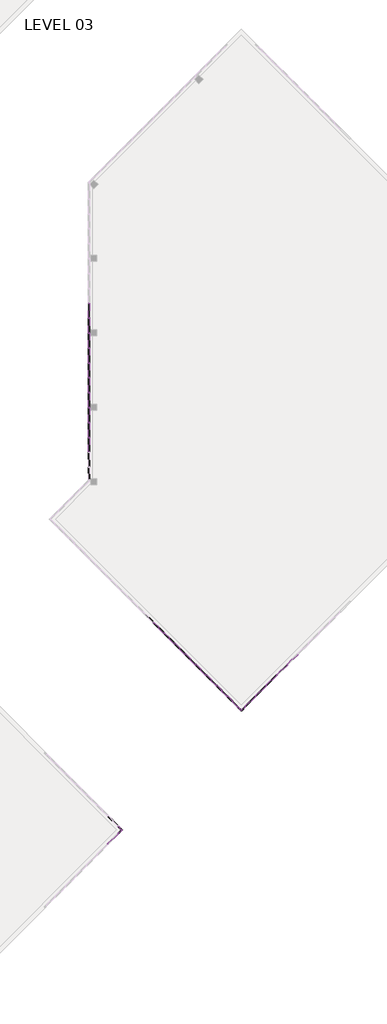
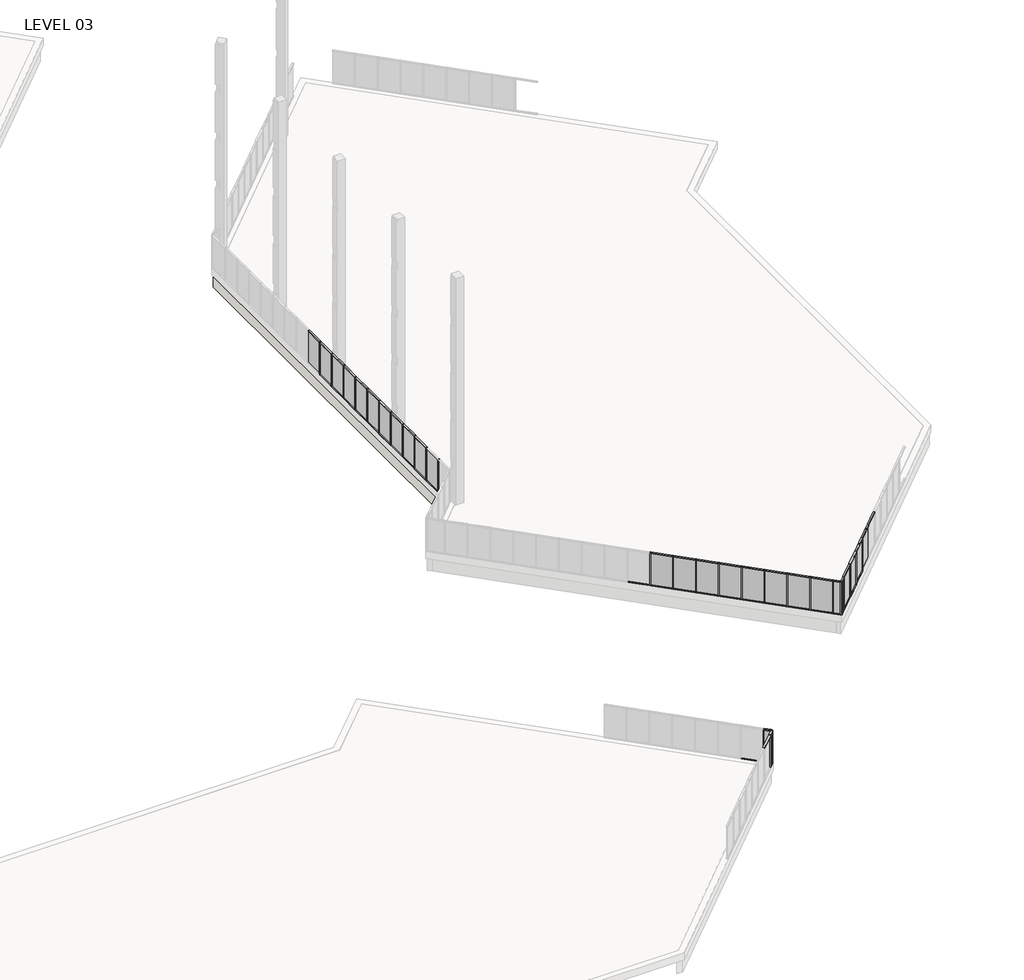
# One storey, part 10 of 18: 86 members, 27 plates, 1 wall.
"""IFC4 building model written with IfcOpenShell, lengths in millimetres."""

from ifc_helpers import new_model, si_unit, origin, place, context, project, spatial, faceted_brep, transform, mapped, element, save
from components import member_5247f267, member_e44af9ab, member_800970d4, member_ac5115e9, member_25b26a38, member_45eb7f2e, member_910c08c9, plate_c01932d8, plate_6d527a83, plate_67294edd

model = new_model("IFC4")

# Units and contexts
model_context = context("Model", 3, world=origin())
ifc_project = project(units=[si_unit("LENGTHUNIT", "METRE", prefix="MILLI")], contexts=[model_context])

# Site, building, storey
site = spatial("IfcSite", under=ifc_project)
building = spatial("IfcBuilding", under=site)
storey = spatial("IfcBuildingStorey", under=building, Name="LEVEL 03", Elevation=8280.4)

# Members
placement = place(None, origin())
member_shape = member_5247f267(model_context)
element("IfcMember", 1, ObjectType="Rectangular Mullion : 2\" x 4.5\" rectangular", at=placement, inside=storey, context=model_context, shape_type="MappedRepresentation", body=[
    mapped(member_shape, transform((64227.3404937, 10894.4485141, 8280.4), x_axis=(0.0, 0.0, -1.0), y_axis=(0.7071067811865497, 0.7071067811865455, 0.0), z_axis=(0.7071067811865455, -0.7071067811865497, 0.0))),
])
element("IfcMember", 2, ObjectType="Rectangular Mullion : 2\" x 4.5\" rectangular", at=placement, inside=storey, context=model_context, shape_type="MappedRepresentation", body=[
    mapped(member_shape, transform((64227.5191663, 10093.8459028, 10871.2), x_axis=(0.0, 0.0, 1.0), y_axis=(0.7071067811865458, -0.7071067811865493, 0.0), z_axis=(0.7071067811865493, 0.7071067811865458, 0.0))),
])
member_2_shape = member_e44af9ab(model_context)
element("IfcMember", 3, ObjectType="Rectangular Mullion : 2\" x 4.5\" rectangular", at=placement, inside=storey, context=model_context, shape_type="MappedRepresentation", body=[
    mapped(member_2_shape, transform((64245.4796786, 10111.8064151, 8280.4), x_axis=(0.7071067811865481, 0.7071067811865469, 0.0), y_axis=(0.7071067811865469, -0.7071067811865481, 0.0), z_axis=(0.0, 0.0, -1.0))),
])
element("IfcMember", 4, ObjectType="Rectangular Mullion : 2\" x 4.5\" rectangular", at=placement, inside=storey, context=model_context, shape_type="MappedRepresentation", body=[
    mapped(member_2_shape, transform((64245.3010059, 10876.4880018, 8280.4), x_axis=(-0.7071067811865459, 0.7071067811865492, 0.0), y_axis=(0.7071067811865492, 0.7071067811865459, 0.0), z_axis=(0.0, 0.0, -1.0))),
])
member_3_shape = member_800970d4(model_context)
element("IfcMember", 5, ObjectType="Rectangular Mullion : 2\" x 4.5\" rectangular", at=placement, inside=storey, context=model_context, shape_type="MappedRepresentation", body=[
    mapped(member_3_shape, transform((64627.7311356, 10494.0578721, 8280.4), x_axis=(0.7071067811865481, 0.7071067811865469, 0.0), y_axis=(0.7071067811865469, -0.7071067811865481, 0.0), z_axis=(0.0, 0.0, -1.0))),
])
element("IfcMember", 6, ObjectType="Rectangular Mullion : 2\" x 4.5\" rectangular", at=placement, inside=storey, context=model_context, shape_type="MappedRepresentation", body=[
    mapped(member_3_shape, transform((64627.7311356, 10494.0578721, 10871.2), x_axis=(0.7071067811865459, -0.7071067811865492, 0.0), y_axis=(0.7071067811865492, 0.7071067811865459, 0.0), z_axis=(0.0, 0.0, 1.0))),
])
member_4_shape = member_ac5115e9(model_context)
element("IfcMember", 7, ObjectType="Rectangular Mullion : 2\" x 4.5\" rectangular", at=placement, inside=storey, context=model_context, shape_type="MappedRepresentation", body=[
    mapped(member_4_shape, transform((64591.8101111, 10458.1368476, 10871.2), x_axis=(0.0, 0.0, 1.0), y_axis=(0.7071067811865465, -0.7071067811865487, 0.0), z_axis=(0.7071067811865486, 0.7071067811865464, 0.0))),
])
element("IfcMember", 8, ObjectType="Rectangular Mullion : 2\" x 4.5\" rectangular", at=placement, inside=storey, context=model_context, shape_type="MappedRepresentation", body=[
    mapped(member_4_shape, transform((64263.4401908, 10129.7669273, 8280.4), x_axis=(0.0, 0.0, -1.0), y_axis=(0.7071067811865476, -0.7071067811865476, 0.0), z_axis=(-0.7071067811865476, -0.7071067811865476, 0.0))),
])
member_5_shape = member_25b26a38(model_context)
element("IfcMember", 9, ObjectType="Rectangular Mullion : 2\" x 4.5\" rectangular", at=placement, inside=storey, context=model_context, shape_type="MappedRepresentation", body=[
    mapped(member_5_shape, transform((64591.8101111, 10529.9788966, 8280.4), x_axis=(0.0, 0.0, -1.0), y_axis=(0.7071067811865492, 0.7071067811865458, 0.0), z_axis=(0.7071067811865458, -0.7071067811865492, 0.0))),
])
element("IfcMember", 10, ObjectType="Rectangular Mullion : 2\" x 4.5\" rectangular", at=placement, inside=storey, context=model_context, shape_type="MappedRepresentation", body=[
    mapped(member_5_shape, transform((64263.2615182, 10858.5274896, 10871.2), x_axis=(0.0, 0.0, 1.0), y_axis=(0.7071067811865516, 0.7071067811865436, 0.0), z_axis=(-0.7071067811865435, 0.7071067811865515, 0.0))),
])
element("IfcMember", 11, ObjectType="Rectangular Mullion : 2\" x 4.5\" rectangular", at=placement, inside=storey, context=model_context, shape_type="MappedRepresentation", body=[
    mapped(member_shape, transform((61263.7847164, 62877.3675885, 10871.2), x_axis=(0.0, 0.0, 1.0), y_axis=(-1.0, 0.0, 0.0), z_axis=(0.0, -1.0, 0.0))),
])
element("IfcMember", 12, ObjectType="Rectangular Mullion : 2\" x 4.5\" rectangular", at=placement, inside=storey, context=model_context, shape_type="MappedRepresentation", body=[
    mapped(member_shape, transform((61263.7847164, 59829.3675885, 10871.2), x_axis=(0.0, 0.0, 1.0), y_axis=(-1.0, 0.0, 0.0), z_axis=(0.0, -1.0, 0.0))),
])
element("IfcMember", 13, ObjectType="Rectangular Mullion : 2\" x 4.5\" rectangular", at=placement, inside=storey, context=model_context, shape_type="MappedRepresentation", body=[
    mapped(member_shape, transform((61263.7847164, 58305.3675885, 10871.2), x_axis=(0.0, 0.0, 1.0), y_axis=(-1.0, 0.0, 0.0), z_axis=(0.0, -1.0, 0.0))),
])
element("IfcMember", 14, ObjectType="Rectangular Mullion : 2\" x 4.5\" rectangular", at=placement, inside=storey, context=model_context, shape_type="MappedRepresentation", body=[
    mapped(member_shape, transform((61263.7847164, 56781.3675885, 10871.2), x_axis=(0.0, 0.0, 1.0), y_axis=(-1.0, 0.0, 0.0), z_axis=(0.0, -1.0, 0.0))),
])
element("IfcMember", 15, ObjectType="Rectangular Mullion : 2\" x 4.5\" rectangular", at=placement, inside=storey, context=model_context, shape_type="MappedRepresentation", body=[
    mapped(member_shape, transform((61263.7847164, 55257.3675885, 10871.2), x_axis=(0.0, 0.0, 1.0), y_axis=(-1.0, 0.0, 0.0), z_axis=(0.0, -1.0, 0.0))),
])
element("IfcMember", 16, ObjectType="Rectangular Mullion : 2\" x 4.5\" rectangular", at=placement, inside=storey, context=model_context, shape_type="MappedRepresentation", body=[
    mapped(member_shape, transform((61263.7847164, 52209.3675885, 10871.2), x_axis=(0.0, 0.0, 1.0), y_axis=(-1.0, 0.0, 0.0), z_axis=(0.0, -1.0, 0.0))),
])
element("IfcMember", 17, ObjectType="Rectangular Mullion : 2\" x 4.5\" rectangular", at=placement, inside=storey, context=model_context, shape_type="MappedRepresentation", body=[
    mapped(member_shape, transform((61263.7847164, 50685.3675885, 10871.2), x_axis=(0.0, 0.0, 1.0), y_axis=(-1.0, 0.0, 0.0), z_axis=(0.0, -1.0, 0.0))),
])
element("IfcMember", 18, ObjectType="Rectangular Mullion : 2\" x 4.5\" rectangular", at=placement, inside=storey, context=model_context, shape_type="MappedRepresentation", body=[
    mapped(member_shape, transform((61263.7847164, 49161.3675885, 10871.2), x_axis=(0.0, 0.0, 1.0), y_axis=(-1.0, 0.0, 0.0), z_axis=(0.0, -1.0, 0.0))),
])
element("IfcMember", 19, ObjectType="Rectangular Mullion : 2\" x 4.5\" rectangular", at=placement, inside=storey, context=model_context, shape_type="MappedRepresentation", body=[
    mapped(member_shape, transform((78327.7024202, 24194.0291567, 10871.2), x_axis=(0.0, 0.0, 1.0), y_axis=(-0.7071067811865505, 0.7071067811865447, 0.0), z_axis=(-0.7071067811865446, -0.7071067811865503, 0.0))),
])
element("IfcMember", 20, ObjectType="Rectangular Mullion : 2\" x 4.5\" rectangular", at=placement, inside=storey, context=model_context, shape_type="MappedRepresentation", body=[
    mapped(member_shape, transform((75407.7593644, 24158.2868049, 10871.2), x_axis=(0.0, 0.0, 1.0), y_axis=(0.7071067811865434, 0.7071067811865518, 0.0), z_axis=(-0.7071067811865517, 0.7071067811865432, 0.0))),
])
element("IfcMember", 21, ObjectType="Rectangular Mullion : 2\" x 4.5\" rectangular", at=placement, inside=storey, context=model_context, shape_type="MappedRepresentation", body=[
    mapped(member_shape, transform((74330.1286299, 25235.9175394, 10871.2), x_axis=(0.0, 0.0, 1.0), y_axis=(0.7071067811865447, 0.7071067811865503, 0.0), z_axis=(-0.7071067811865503, 0.7071067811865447, 0.0))),
])
element("IfcMember", 22, ObjectType="Rectangular Mullion : 2\" x 4.5\" rectangular", at=placement, inside=storey, context=model_context, shape_type="MappedRepresentation", body=[
    mapped(member_shape, transform((73252.4978954, 26313.5482739, 10871.2), x_axis=(0.0, 0.0, 1.0), y_axis=(0.7071067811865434, 0.7071067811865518, 0.0), z_axis=(-0.7071067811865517, 0.7071067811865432, 0.0))),
])
element("IfcMember", 23, ObjectType="Rectangular Mullion : 2\" x 4.5\" rectangular", at=placement, inside=storey, context=model_context, shape_type="MappedRepresentation", body=[
    mapped(member_shape, transform((71097.2364263, 28468.809743, 10871.2), x_axis=(0.0, 0.0, 1.0), y_axis=(0.7071067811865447, 0.7071067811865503, 0.0), z_axis=(-0.7071067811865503, 0.7071067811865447, 0.0))),
])
element("IfcMember", 24, ObjectType="Rectangular Mullion : 2\" x 4.5\" rectangular", at=placement, inside=storey, context=model_context, shape_type="MappedRepresentation", body=[
    mapped(member_shape, transform((70019.6056918, 29546.4404775, 10871.2), x_axis=(0.0, 0.0, 1.0), y_axis=(0.7071067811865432, 0.7071067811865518, 0.0), z_axis=(-0.7071067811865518, 0.7071067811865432, 0.0))),
])
element("IfcMember", 25, ObjectType="Rectangular Mullion : 2\" x 4.5\" rectangular", at=placement, inside=storey, context=model_context, shape_type="MappedRepresentation", body=[
    mapped(member_shape, transform((68941.9749572, 30624.071212, 10871.2), x_axis=(0.0, 0.0, 1.0), y_axis=(0.7071067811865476, 0.7071067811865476, 0.0), z_axis=(-0.7071067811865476, 0.7071067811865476, 0.0))),
])
element("IfcMember", 26, ObjectType="Rectangular Mullion : 2\" x 4.5\" rectangular", at=placement, inside=storey, context=model_context, shape_type="MappedRepresentation", body=[
    mapped(member_shape, transform((67864.3442227, 31701.7019466, 10871.2), x_axis=(0.0, 0.0, 1.0), y_axis=(0.7071067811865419, 0.7071067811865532, 0.0), z_axis=(-0.7071067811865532, 0.7071067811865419, 0.0))),
])
element("IfcMember", 27, ObjectType="Rectangular Mullion : 2\" x 4.5\" rectangular", at=placement, inside=storey, context=model_context, shape_type="MappedRepresentation", body=[
    mapped(member_shape, transform((81560.5946238, 27426.9213603, 10871.2), x_axis=(0.0, 0.0, 1.0), y_axis=(-0.7071067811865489, 0.7071067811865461, 0.0), z_axis=(-0.7071067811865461, -0.7071067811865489, 0.0))),
])
element("IfcMember", 28, ObjectType="Rectangular Mullion : 2\" x 4.5\" rectangular", at=placement, inside=storey, context=model_context, shape_type="MappedRepresentation", body=[
    mapped(member_shape, transform((80482.9638893, 26349.2906258, 10871.2), x_axis=(0.0, 0.0, 1.0), y_axis=(-0.7071067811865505, 0.7071067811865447, 0.0), z_axis=(-0.7071067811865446, -0.7071067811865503, 0.0))),
])
element("IfcMember", 29, ObjectType="Rectangular Mullion : 2\" x 4.5\" rectangular", at=placement, inside=storey, context=model_context, shape_type="MappedRepresentation", body=[
    mapped(member_shape, transform((79405.3331548, 25271.6598913, 10871.2), x_axis=(0.0, 0.0, 1.0), y_axis=(-0.7071067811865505, 0.7071067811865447, 0.0), z_axis=(-0.7071067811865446, -0.7071067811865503, 0.0))),
])
element("IfcMember", 30, ObjectType="Rectangular Mullion : 2\" x 4.5\" rectangular", at=placement, inside=storey, context=model_context, shape_type="MappedRepresentation", body=[
    mapped(member_shape, transform((77250.0716857, 23116.3984222, 10871.2), x_axis=(0.0, 0.0, 1.0), y_axis=(-0.7071067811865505, 0.7071067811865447, 0.0), z_axis=(-0.7071067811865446, -0.7071067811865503, 0.0))),
])
element("IfcMember", 31, ObjectType="Rectangular Mullion : 2\" x 4.5\" rectangular", at=placement, inside=storey, context=model_context, shape_type="MappedRepresentation", body=[
    mapped(member_shape, transform((72174.8671608, 27391.1790085, 10871.2), x_axis=(0.0, 0.0, 1.0), y_axis=(0.7071067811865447, 0.7071067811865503, 0.0), z_axis=(-0.7071067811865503, 0.7071067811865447, 0.0))),
])
element("IfcMember", 32, ObjectType="Rectangular Mullion : 2\" x 4.5\" rectangular", at=placement, inside=storey, context=model_context, shape_type="MappedRepresentation", body=[
    mapped(member_shape, transform((61263.7847164, 53733.3675885, 10871.2), x_axis=(0.0, 0.0, 1.0), y_axis=(-1.0, 0.0, 0.0), z_axis=(0.0, -1.0, 0.0))),
])
element("IfcMember", 33, ObjectType="Rectangular Mullion : 2\" x 4.5\" rectangular", at=placement, inside=storey, context=model_context, shape_type="MappedRepresentation", body=[
    mapped(member_shape, transform((61263.7847164, 61353.3675885, 10871.2), x_axis=(0.0, 0.0, 1.0), y_axis=(-1.0, 0.0, 0.0), z_axis=(0.0, -1.0, 0.0))),
])
element("IfcMember", 34, ObjectType="Rectangular Mullion : 2\" x 4.5\" rectangular", at=placement, inside=storey, context=model_context, shape_type="MappedRepresentation", body=[
    mapped(member_shape, transform((61263.7847164, 62826.5675885, 8280.4), x_axis=(0.0, 0.0, -1.0), y_axis=(-1.0, 0.0, 0.0), z_axis=(0.0, 1.0, 0.0))),
])
element("IfcMember", 35, ObjectType="Rectangular Mullion : 2\" x 4.5\" rectangular", at=placement, inside=storey, context=model_context, shape_type="MappedRepresentation", body=[
    mapped(member_shape, transform((61263.7847164, 59778.5675885, 8280.4), x_axis=(0.0, 0.0, -1.0), y_axis=(-1.0, 0.0, 0.0), z_axis=(0.0, 1.0, 0.0))),
])
element("IfcMember", 36, ObjectType="Rectangular Mullion : 2\" x 4.5\" rectangular", at=placement, inside=storey, context=model_context, shape_type="MappedRepresentation", body=[
    mapped(member_shape, transform((61263.7847164, 58254.5675885, 8280.4), x_axis=(0.0, 0.0, -1.0), y_axis=(-1.0, 0.0, 0.0), z_axis=(0.0, 1.0, 0.0))),
])
element("IfcMember", 37, ObjectType="Rectangular Mullion : 2\" x 4.5\" rectangular", at=placement, inside=storey, context=model_context, shape_type="MappedRepresentation", body=[
    mapped(member_shape, transform((61263.7847164, 56730.5675885, 8280.4), x_axis=(0.0, 0.0, -1.0), y_axis=(-1.0, 0.0, 0.0), z_axis=(0.0, 1.0, 0.0))),
])
element("IfcMember", 38, ObjectType="Rectangular Mullion : 2\" x 4.5\" rectangular", at=placement, inside=storey, context=model_context, shape_type="MappedRepresentation", body=[
    mapped(member_shape, transform((61263.7847164, 55206.5675885, 8280.4), x_axis=(0.0, 0.0, -1.0), y_axis=(-1.0, 0.0, 0.0), z_axis=(0.0, 1.0, 0.0))),
])
element("IfcMember", 39, ObjectType="Rectangular Mullion : 2\" x 4.5\" rectangular", at=placement, inside=storey, context=model_context, shape_type="MappedRepresentation", body=[
    mapped(member_shape, transform((61263.7847164, 52158.5675885, 8280.4), x_axis=(0.0, 0.0, -1.0), y_axis=(-1.0, 0.0, 0.0), z_axis=(0.0, 1.0, 0.0))),
])
element("IfcMember", 40, ObjectType="Rectangular Mullion : 2\" x 4.5\" rectangular", at=placement, inside=storey, context=model_context, shape_type="MappedRepresentation", body=[
    mapped(member_shape, transform((61263.7847164, 50634.5675885, 8280.4), x_axis=(0.0, 0.0, -1.0), y_axis=(-1.0, 0.0, 0.0), z_axis=(0.0, 1.0, 0.0))),
])
element("IfcMember", 41, ObjectType="Rectangular Mullion : 2\" x 4.5\" rectangular", at=placement, inside=storey, context=model_context, shape_type="MappedRepresentation", body=[
    mapped(member_shape, transform((61263.7847164, 49110.5675885, 8280.4), x_axis=(0.0, 0.0, -1.0), y_axis=(-1.0, 0.0, 0.0), z_axis=(0.0, 1.0, 0.0))),
])
element("IfcMember", 42, ObjectType="Rectangular Mullion : 2\" x 4.5\" rectangular", at=placement, inside=storey, context=model_context, shape_type="MappedRepresentation", body=[
    mapped(member_shape, transform((78291.7813957, 24158.1081322, 8280.4), x_axis=(0.0, 0.0, -1.0), y_axis=(-0.7071067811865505, 0.7071067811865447, 0.0), z_axis=(0.7071067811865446, 0.7071067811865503, 0.0))),
])
element("IfcMember", 43, ObjectType="Rectangular Mullion : 2\" x 4.5\" rectangular", at=placement, inside=storey, context=model_context, shape_type="MappedRepresentation", body=[
    mapped(member_shape, transform((75371.8383399, 24194.2078294, 8280.4), x_axis=(0.0, 0.0, -1.0), y_axis=(0.7071067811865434, 0.7071067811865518, 0.0), z_axis=(0.7071067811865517, -0.7071067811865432, 0.0))),
])
element("IfcMember", 44, ObjectType="Rectangular Mullion : 2\" x 4.5\" rectangular", at=placement, inside=storey, context=model_context, shape_type="MappedRepresentation", body=[
    mapped(member_shape, transform((74294.2076054, 25271.8385639, 8280.4), x_axis=(0.0, 0.0, -1.0), y_axis=(0.7071067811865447, 0.7071067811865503, 0.0), z_axis=(0.7071067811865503, -0.7071067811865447, 0.0))),
])
element("IfcMember", 45, ObjectType="Rectangular Mullion : 2\" x 4.5\" rectangular", at=placement, inside=storey, context=model_context, shape_type="MappedRepresentation", body=[
    mapped(member_shape, transform((73216.5768709, 26349.4692984, 8280.4), x_axis=(0.0, 0.0, -1.0), y_axis=(0.7071067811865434, 0.7071067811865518, 0.0), z_axis=(0.7071067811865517, -0.7071067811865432, 0.0))),
])
element("IfcMember", 46, ObjectType="Rectangular Mullion : 2\" x 4.5\" rectangular", at=placement, inside=storey, context=model_context, shape_type="MappedRepresentation", body=[
    mapped(member_shape, transform((71061.3154018, 28504.7307675, 8280.4), x_axis=(0.0, 0.0, -1.0), y_axis=(0.7071067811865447, 0.7071067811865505, 0.0), z_axis=(0.7071067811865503, -0.7071067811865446, 0.0))),
])
element("IfcMember", 47, ObjectType="Rectangular Mullion : 2\" x 4.5\" rectangular", at=placement, inside=storey, context=model_context, shape_type="MappedRepresentation", body=[
    mapped(member_shape, transform((69983.6846673, 29582.361502, 8280.4), x_axis=(0.0, 0.0, -1.0), y_axis=(0.7071067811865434, 0.7071067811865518, 0.0), z_axis=(0.7071067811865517, -0.7071067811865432, 0.0))),
])
element("IfcMember", 48, ObjectType="Rectangular Mullion : 2\" x 4.5\" rectangular", at=placement, inside=storey, context=model_context, shape_type="MappedRepresentation", body=[
    mapped(member_shape, transform((68906.0539328, 30659.9922365, 8280.4), x_axis=(0.0, 0.0, -1.0), y_axis=(0.7071067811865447, 0.7071067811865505, 0.0), z_axis=(0.7071067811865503, -0.7071067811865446, 0.0))),
])
element("IfcMember", 49, ObjectType="Rectangular Mullion : 2\" x 4.5\" rectangular", at=placement, inside=storey, context=model_context, shape_type="MappedRepresentation", body=[
    mapped(member_shape, transform((80447.0428648, 26313.3696013, 8280.4), x_axis=(0.0, 0.0, -1.0), y_axis=(-0.7071067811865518, 0.7071067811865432, 0.0), z_axis=(0.7071067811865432, 0.7071067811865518, 0.0))),
])
element("IfcMember", 50, ObjectType="Rectangular Mullion : 2\" x 4.5\" rectangular", at=placement, inside=storey, context=model_context, shape_type="MappedRepresentation", body=[
    mapped(member_shape, transform((79369.4121303, 25235.7388668, 8280.4), x_axis=(0.0, 0.0, -1.0), y_axis=(-0.7071067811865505, 0.7071067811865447, 0.0), z_axis=(0.7071067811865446, 0.7071067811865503, 0.0))),
])
element("IfcMember", 51, ObjectType="Rectangular Mullion : 2\" x 4.5\" rectangular", at=placement, inside=storey, context=model_context, shape_type="MappedRepresentation", body=[
    mapped(member_shape, transform((72138.9461363, 27427.1000329, 8280.4), x_axis=(0.0, 0.0, -1.0), y_axis=(0.7071067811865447, 0.7071067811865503, 0.0), z_axis=(0.7071067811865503, -0.7071067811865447, 0.0))),
])
element("IfcMember", 52, ObjectType="Rectangular Mullion : 2\" x 4.5\" rectangular", at=placement, inside=storey, context=model_context, shape_type="MappedRepresentation", body=[
    mapped(member_shape, transform((76449.4690745, 23116.5770948, 8280.4), x_axis=(0.0, 0.0, -1.0), y_axis=(0.7071067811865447, 0.7071067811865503, 0.0), z_axis=(0.7071067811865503, -0.7071067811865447, 0.0))),
])
element("IfcMember", 53, ObjectType="Rectangular Mullion : 2\" x 4.5\" rectangular", at=placement, inside=storey, context=model_context, shape_type="MappedRepresentation", body=[
    mapped(member_shape, transform((61263.7847164, 53682.5675885, 8280.4), x_axis=(0.0, 0.0, -1.0), y_axis=(-1.0, 0.0, 0.0), z_axis=(0.0, 1.0, 0.0))),
])
element("IfcMember", 54, ObjectType="Rectangular Mullion : 2\" x 4.5\" rectangular", at=placement, inside=storey, context=model_context, shape_type="MappedRepresentation", body=[
    mapped(member_shape, transform((61263.7847164, 61302.5675885, 8280.4), x_axis=(0.0, 0.0, -1.0), y_axis=(-1.0, 0.0, 0.0), z_axis=(0.0, 1.0, 0.0))),
])
element("IfcMember", 55, ObjectType="Rectangular Mullion : 2\" x 4.5\" rectangular", at=placement, inside=storey, context=model_context, shape_type="MappedRepresentation", body=[
    mapped(member_2_shape, transform((61263.7847164, 62851.9675885, 8280.4), x_axis=(0.0, -1.0, 0.0), y_axis=(-1.0, 0.0, 0.0), z_axis=(0.0, 0.0, -1.0))),
])
element("IfcMember", 56, ObjectType="Rectangular Mullion : 2\" x 4.5\" rectangular", at=placement, inside=storey, context=model_context, shape_type="MappedRepresentation", body=[
    mapped(member_2_shape, transform((61263.7847164, 59803.9675885, 8280.4), x_axis=(0.0, -1.0, 0.0), y_axis=(-1.0, 0.0, 0.0), z_axis=(0.0, 0.0, -1.0))),
])
element("IfcMember", 57, ObjectType="Rectangular Mullion : 2\" x 4.5\" rectangular", at=placement, inside=storey, context=model_context, shape_type="MappedRepresentation", body=[
    mapped(member_2_shape, transform((61263.7847164, 58279.9675885, 8280.4), x_axis=(0.0, -1.0, 0.0), y_axis=(-1.0, 0.0, 0.0), z_axis=(0.0, 0.0, -1.0))),
])
element("IfcMember", 58, ObjectType="Rectangular Mullion : 2\" x 4.5\" rectangular", at=placement, inside=storey, context=model_context, shape_type="MappedRepresentation", body=[
    mapped(member_2_shape, transform((61263.7847164, 56755.9675885, 8280.4), x_axis=(0.0, -1.0, 0.0), y_axis=(-1.0, 0.0, 0.0), z_axis=(0.0, 0.0, -1.0))),
])
element("IfcMember", 59, ObjectType="Rectangular Mullion : 2\" x 4.5\" rectangular", at=placement, inside=storey, context=model_context, shape_type="MappedRepresentation", body=[
    mapped(member_2_shape, transform((61263.7847164, 55231.9675885, 8280.4), x_axis=(0.0, -1.0, 0.0), y_axis=(-1.0, 0.0, 0.0), z_axis=(0.0, 0.0, -1.0))),
])
element("IfcMember", 60, ObjectType="Rectangular Mullion : 2\" x 4.5\" rectangular", at=placement, inside=storey, context=model_context, shape_type="MappedRepresentation", body=[
    mapped(member_2_shape, transform((61263.7847164, 52183.9675885, 8280.4), x_axis=(0.0, -1.0, 0.0), y_axis=(-1.0, 0.0, 0.0), z_axis=(0.0, 0.0, -1.0))),
])
element("IfcMember", 61, ObjectType="Rectangular Mullion : 2\" x 4.5\" rectangular", at=placement, inside=storey, context=model_context, shape_type="MappedRepresentation", body=[
    mapped(member_2_shape, transform((61263.7847164, 50659.9675885, 8280.4), x_axis=(0.0, -1.0, 0.0), y_axis=(-1.0, 0.0, 0.0), z_axis=(0.0, 0.0, -1.0))),
])
element("IfcMember", 62, ObjectType="Rectangular Mullion : 2\" x 4.5\" rectangular", at=placement, inside=storey, context=model_context, shape_type="MappedRepresentation", body=[
    mapped(member_2_shape, transform((61263.7847164, 49135.9675885, 8280.4), x_axis=(0.0, -1.0, 0.0), y_axis=(-1.0, 0.0, 0.0), z_axis=(0.0, 0.0, -1.0))),
])
element("IfcMember", 63, ObjectType="Rectangular Mullion : 2\" x 4.5\" rectangular", at=placement, inside=storey, context=model_context, shape_type="MappedRepresentation", body=[
    mapped(member_2_shape, transform((61263.7847164, 47611.9675885, 8280.4), x_axis=(0.0, -1.0, 0.0), y_axis=(-1.0, 0.0, 0.0), z_axis=(0.0, 0.0, -1.0))),
])
element("IfcMember", 64, ObjectType="Rectangular Mullion : 2\" x 4.5\" rectangular", at=placement, inside=storey, context=model_context, shape_type="MappedRepresentation", body=[
    mapped(member_2_shape, transform((78309.741908, 24176.0686445, 8280.4), x_axis=(-0.7071067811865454, -0.7071067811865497, 0.0), y_axis=(-0.7071067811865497, 0.7071067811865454, 0.0), z_axis=(0.0, 0.0, -1.0))),
])
element("IfcMember", 65, ObjectType="Rectangular Mullion : 2\" x 4.5\" rectangular", at=placement, inside=storey, context=model_context, shape_type="MappedRepresentation", body=[
    mapped(member_2_shape, transform((75389.7988522, 24176.2473171, 8280.4), x_axis=(-0.7071067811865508, 0.7071067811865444, 0.0), y_axis=(0.7071067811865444, 0.7071067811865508, 0.0), z_axis=(0.0, 0.0, -1.0))),
])
element("IfcMember", 66, ObjectType="Rectangular Mullion : 2\" x 4.5\" rectangular", at=placement, inside=storey, context=model_context, shape_type="MappedRepresentation", body=[
    mapped(member_2_shape, transform((74312.1681176, 25253.8780517, 8280.4), x_axis=(-0.7071067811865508, 0.7071067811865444, 0.0), y_axis=(0.7071067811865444, 0.7071067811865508, 0.0), z_axis=(0.0, 0.0, -1.0))),
])
element("IfcMember", 67, ObjectType="Rectangular Mullion : 2\" x 4.5\" rectangular", at=placement, inside=storey, context=model_context, shape_type="MappedRepresentation", body=[
    mapped(member_2_shape, transform((73234.5373831, 26331.5087862, 8280.4), x_axis=(-0.7071067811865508, 0.7071067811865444, 0.0), y_axis=(0.7071067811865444, 0.7071067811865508, 0.0), z_axis=(0.0, 0.0, -1.0))),
])
element("IfcMember", 68, ObjectType="Rectangular Mullion : 2\" x 4.5\" rectangular", at=placement, inside=storey, context=model_context, shape_type="MappedRepresentation", body=[
    mapped(member_2_shape, transform((71079.2759141, 28486.7702552, 8280.4), x_axis=(-0.7071067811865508, 0.7071067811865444, 0.0), y_axis=(0.7071067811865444, 0.7071067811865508, 0.0), z_axis=(0.0, 0.0, -1.0))),
])
element("IfcMember", 69, ObjectType="Rectangular Mullion : 2\" x 4.5\" rectangular", at=placement, inside=storey, context=model_context, shape_type="MappedRepresentation", body=[
    mapped(member_2_shape, transform((70001.6451795, 29564.4009898, 8280.4), x_axis=(-0.7071067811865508, 0.7071067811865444, 0.0), y_axis=(0.7071067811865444, 0.7071067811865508, 0.0), z_axis=(0.0, 0.0, -1.0))),
])
element("IfcMember", 70, ObjectType="Rectangular Mullion : 2\" x 4.5\" rectangular", at=placement, inside=storey, context=model_context, shape_type="MappedRepresentation", body=[
    mapped(member_2_shape, transform((68924.014445, 30642.0317243, 8280.4), x_axis=(-0.7071067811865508, 0.7071067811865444, 0.0), y_axis=(0.7071067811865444, 0.7071067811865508, 0.0), z_axis=(0.0, 0.0, -1.0))),
])
element("IfcMember", 71, ObjectType="Rectangular Mullion : 2\" x 4.5\" rectangular", at=placement, inside=storey, context=model_context, shape_type="MappedRepresentation", body=[
    mapped(member_2_shape, transform((67846.3837105, 31719.6624588, 8280.4), x_axis=(-0.7071067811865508, 0.7071067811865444, 0.0), y_axis=(0.7071067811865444, 0.7071067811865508, 0.0), z_axis=(0.0, 0.0, -1.0))),
])
element("IfcMember", 72, ObjectType="Rectangular Mullion : 2\" x 4.5\" rectangular", at=placement, inside=storey, context=model_context, shape_type="MappedRepresentation", body=[
    mapped(member_2_shape, transform((80465.003377, 26331.3301135, 8280.4), x_axis=(-0.7071067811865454, -0.7071067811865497, 0.0), y_axis=(-0.7071067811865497, 0.7071067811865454, 0.0), z_axis=(0.0, 0.0, -1.0))),
])
element("IfcMember", 73, ObjectType="Rectangular Mullion : 2\" x 4.5\" rectangular", at=placement, inside=storey, context=model_context, shape_type="MappedRepresentation", body=[
    mapped(member_2_shape, transform((79387.3726425, 25253.699379, 8280.4), x_axis=(-0.7071067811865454, -0.7071067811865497, 0.0), y_axis=(-0.7071067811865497, 0.7071067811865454, 0.0), z_axis=(0.0, 0.0, -1.0))),
])
element("IfcMember", 74, ObjectType="Rectangular Mullion : 2\" x 4.5\" rectangular", at=placement, inside=storey, context=model_context, shape_type="MappedRepresentation", body=[
    mapped(member_2_shape, transform((77232.1111735, 23098.43791, 8280.4), x_axis=(-0.7071067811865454, -0.7071067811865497, 0.0), y_axis=(-0.7071067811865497, 0.7071067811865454, 0.0), z_axis=(0.0, 0.0, -1.0))),
])
element("IfcMember", 75, ObjectType="Rectangular Mullion : 2\" x 4.5\" rectangular", at=placement, inside=storey, context=model_context, shape_type="MappedRepresentation", body=[
    mapped(member_2_shape, transform((72156.9066486, 27409.1395207, 8280.4), x_axis=(-0.7071067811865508, 0.7071067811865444, 0.0), y_axis=(0.7071067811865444, 0.7071067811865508, 0.0), z_axis=(0.0, 0.0, -1.0))),
])
element("IfcMember", 76, ObjectType="Rectangular Mullion : 2\" x 4.5\" rectangular", at=placement, inside=storey, context=model_context, shape_type="MappedRepresentation", body=[
    mapped(member_2_shape, transform((76467.4295867, 23098.6165826, 8280.4), x_axis=(-0.7071067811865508, 0.7071067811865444, 0.0), y_axis=(0.7071067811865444, 0.7071067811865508, 0.0), z_axis=(0.0, 0.0, -1.0))),
])
element("IfcMember", 77, ObjectType="Rectangular Mullion : 2\" x 4.5\" rectangular", at=placement, inside=storey, context=model_context, shape_type="MappedRepresentation", body=[
    mapped(member_2_shape, transform((61263.7847164, 53707.9675885, 8280.4), x_axis=(0.0, -1.0, 0.0), y_axis=(-1.0, 0.0, 0.0), z_axis=(0.0, 0.0, -1.0))),
])
element("IfcMember", 78, ObjectType="Rectangular Mullion : 2\" x 4.5\" rectangular", at=placement, inside=storey, context=model_context, shape_type="MappedRepresentation", body=[
    mapped(member_2_shape, transform((61263.7847164, 61327.9675885, 8280.4), x_axis=(0.0, -1.0, 0.0), y_axis=(-1.0, 0.0, 0.0), z_axis=(0.0, 0.0, -1.0))),
])
element("IfcMember", 79, ObjectType="Rectangular Mullion : 2\" x 4.5\" rectangular", at=placement, inside=storey, context=model_context, shape_type="MappedRepresentation", body=[
    mapped(member_3_shape, transform((76849.8597164, 22716.1864529, 8280.4), x_axis=(-0.7071067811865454, -0.7071067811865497, 0.0), y_axis=(-0.7071067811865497, 0.7071067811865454, 0.0), z_axis=(0.0, 0.0, -1.0))),
])
element("IfcMember", 80, ObjectType="Rectangular Mullion : 2\" x 4.5\" rectangular", at=placement, inside=storey, context=model_context, shape_type="MappedRepresentation", body=[
    mapped(member_3_shape, transform((76849.8597164, 22716.1864529, 10871.2), x_axis=(0.7071067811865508, -0.7071067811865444, 0.0), y_axis=(0.7071067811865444, 0.7071067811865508, 0.0), z_axis=(0.0, 0.0, 1.0))),
])
member_6_shape = member_45eb7f2e(model_context)
element("IfcMember", 81, ObjectType="Rectangular Mullion : 2\" x 4.5\" rectangular", at=placement, inside=storey, context=model_context, shape_type="MappedRepresentation", body=[
    mapped(member_6_shape, transform((61263.7847164, 47586.5675885, 8280.4), x_axis=(0.0, 0.0, -1.0), y_axis=(-1.0, 0.0, 0.0), z_axis=(0.0, 1.0, 0.0))),
])
element("IfcMember", 82, ObjectType="Rectangular Mullion : 2\" x 4.5\" rectangular", at=placement, inside=storey, context=model_context, shape_type="MappedRepresentation", body=[
    mapped(member_5_shape, transform((76485.3900989, 23080.6560704, 10871.2), x_axis=(0.0, 0.0, 1.0), y_axis=(0.7071067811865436, 0.7071067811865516, 0.0), z_axis=(-0.7071067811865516, 0.7071067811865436, 0.0))),
])
element("IfcMember", 83, ObjectType="Rectangular Mullion : 2\" x 4.5\" rectangular", at=placement, inside=storey, context=model_context, shape_type="MappedRepresentation", body=[
    mapped(member_5_shape, transform((76813.9386919, 22752.1074774, 8280.4), x_axis=(0.0, 0.0, -1.0), y_axis=(0.7071067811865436, 0.7071067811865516, 0.0), z_axis=(0.7071067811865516, -0.7071067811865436, 0.0))),
])
element("IfcMember", 84, ObjectType="Rectangular Mullion : 2\" x 4.5\" rectangular", at=placement, inside=storey, context=model_context, shape_type="MappedRepresentation", body=[
    mapped(member_4_shape, transform((76885.7807409, 22752.1074774, 10871.2), x_axis=(0.0, 0.0, 1.0), y_axis=(-0.7071067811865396, 0.7071067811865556, 0.0), z_axis=(-0.7071067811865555, -0.7071067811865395, 0.0))),
])
element("IfcMember", 85, ObjectType="Rectangular Mullion : 2\" x 4.5\" rectangular", at=placement, inside=storey, context=model_context, shape_type="MappedRepresentation", body=[
    mapped(member_4_shape, transform((77214.1506612, 23080.4773977, 8280.4), x_axis=(0.0, 0.0, -1.0), y_axis=(-0.7071067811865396, 0.7071067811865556, 0.0), z_axis=(0.7071067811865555, 0.7071067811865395, 0.0))),
])
member_7_shape = member_910c08c9(model_context)
element("IfcMember", 86, ObjectType="Rectangular Mullion : 2\" x 4.5\" rectangular", at=placement, inside=storey, context=model_context, shape_type="MappedRepresentation", body=[
    mapped(member_7_shape, transform((67828.4231982, 31737.6229711, 8280.4), x_axis=(0.0, 0.0, -1.0), y_axis=(0.7071067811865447, 0.7071067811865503, 0.0), z_axis=(0.7071067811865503, -0.7071067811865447, 0.0))),
])

# Plates
plate_shape = plate_c01932d8(model_context)
element("IfcPlate", 87, ObjectType="System Panel : 1/4\" Glass", at=placement, inside=storey, context=model_context, shape_type="MappedRepresentation", body=[
    mapped(plate_shape, transform((64427.625151, 10293.9518875, 8331.2), x_axis=(0.7071067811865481, 0.7071067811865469, 0.0), y_axis=(-0.7071067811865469, 0.7071067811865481, 0.0), z_axis=(0.0, 0.0, 1.0))),
])
plate_2_shape = plate_6d527a83(model_context)
element("IfcPlate", 88, ObjectType="System Panel : 1/4\" Glass", at=placement, inside=storey, context=model_context, shape_type="MappedRepresentation", body=[
    mapped(plate_2_shape, transform((64427.5358147, 10694.2531931, 8331.2), x_axis=(-0.7071067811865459, 0.7071067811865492, 0.0), y_axis=(-0.7071067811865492, -0.7071067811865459, 0.0), z_axis=(0.0, 0.0, 1.0))),
])
plate_3_shape = plate_67294edd(model_context)
element("IfcPlate", 89, ObjectType="System Panel : 1/4\" Glass", at=placement, inside=storey, context=model_context, shape_type="MappedRepresentation", body=[
    mapped(plate_3_shape, transform((61263.7847164, 63613.9675885, 8331.2), x_axis=(0.0, -1.0, 0.0), y_axis=(1.0, 0.0, 0.0), z_axis=(0.0, 0.0, 1.0))),
])
element("IfcPlate", 90, ObjectType="System Panel : 1/4\" Glass", at=placement, inside=storey, context=model_context, shape_type="MappedRepresentation", body=[
    mapped(plate_3_shape, transform((61263.7847164, 62089.9675885, 8331.2), x_axis=(0.0, -1.0, 0.0), y_axis=(1.0, 0.0, 0.0), z_axis=(0.0, 0.0, 1.0))),
])
element("IfcPlate", 91, ObjectType="System Panel : 1/4\" Glass", at=placement, inside=storey, context=model_context, shape_type="MappedRepresentation", body=[
    mapped(plate_3_shape, transform((61263.7847164, 59041.9675885, 8331.2), x_axis=(0.0, -1.0, 0.0), y_axis=(1.0, 0.0, 0.0), z_axis=(0.0, 0.0, 1.0))),
])
element("IfcPlate", 92, ObjectType="System Panel : 1/4\" Glass", at=placement, inside=storey, context=model_context, shape_type="MappedRepresentation", body=[
    mapped(plate_3_shape, transform((61263.7847164, 57517.9675885, 8331.2), x_axis=(0.0, -1.0, 0.0), y_axis=(1.0, 0.0, 0.0), z_axis=(0.0, 0.0, 1.0))),
])
element("IfcPlate", 93, ObjectType="System Panel : 1/4\" Glass", at=placement, inside=storey, context=model_context, shape_type="MappedRepresentation", body=[
    mapped(plate_3_shape, transform((61263.7847164, 55993.9675885, 8331.2), x_axis=(0.0, -1.0, 0.0), y_axis=(1.0, 0.0, 0.0), z_axis=(0.0, 0.0, 1.0))),
])
element("IfcPlate", 94, ObjectType="System Panel : 1/4\" Glass", at=placement, inside=storey, context=model_context, shape_type="MappedRepresentation", body=[
    mapped(plate_3_shape, transform((61263.7847164, 54469.9675885, 8331.2), x_axis=(0.0, -1.0, 0.0), y_axis=(1.0, 0.0, 0.0), z_axis=(0.0, 0.0, 1.0))),
])
element("IfcPlate", 95, ObjectType="System Panel : 1/4\" Glass", at=placement, inside=storey, context=model_context, shape_type="MappedRepresentation", body=[
    mapped(plate_3_shape, transform((61263.7847164, 51421.9675885, 8331.2), x_axis=(0.0, -1.0, 0.0), y_axis=(1.0, 0.0, 0.0), z_axis=(0.0, 0.0, 1.0))),
])
element("IfcPlate", 96, ObjectType="System Panel : 1/4\" Glass", at=placement, inside=storey, context=model_context, shape_type="MappedRepresentation", body=[
    mapped(plate_3_shape, transform((61263.7847164, 49897.9675885, 8331.2), x_axis=(0.0, -1.0, 0.0), y_axis=(1.0, 0.0, 0.0), z_axis=(0.0, 0.0, 1.0))),
])
element("IfcPlate", 97, ObjectType="System Panel : 1/4\" Glass", at=placement, inside=storey, context=model_context, shape_type="MappedRepresentation", body=[
    mapped(plate_3_shape, transform((61263.7847164, 48373.9675885, 8331.2), x_axis=(0.0, -1.0, 0.0), y_axis=(1.0, 0.0, 0.0), z_axis=(0.0, 0.0, 1.0))),
])
element("IfcPlate", 98, ObjectType="System Panel : 1/4\" Glass", at=placement, inside=storey, context=model_context, shape_type="MappedRepresentation", body=[
    mapped(plate_3_shape, transform((77770.9265407, 23637.2532772, 8331.2), x_axis=(-0.7071067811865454, -0.7071067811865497, 0.0), y_axis=(0.7071067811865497, -0.7071067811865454, 0.0), z_axis=(0.0, 0.0, 1.0))),
])
element("IfcPlate", 99, ObjectType="System Panel : 1/4\" Glass", at=placement, inside=storey, context=model_context, shape_type="MappedRepresentation", body=[
    mapped(plate_3_shape, transform((74850.9834849, 24715.0626844, 8331.2), x_axis=(-0.7071067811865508, 0.7071067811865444, 0.0), y_axis=(-0.7071067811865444, -0.7071067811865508, 0.0), z_axis=(0.0, 0.0, 1.0))),
])
element("IfcPlate", 100, ObjectType="System Panel : 1/4\" Glass", at=placement, inside=storey, context=model_context, shape_type="MappedRepresentation", body=[
    mapped(plate_3_shape, transform((73773.3527504, 25792.6934189, 8331.2), x_axis=(-0.7071067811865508, 0.7071067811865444, 0.0), y_axis=(-0.7071067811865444, -0.7071067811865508, 0.0), z_axis=(0.0, 0.0, 1.0))),
])
element("IfcPlate", 101, ObjectType="System Panel : 1/4\" Glass", at=placement, inside=storey, context=model_context, shape_type="MappedRepresentation", body=[
    mapped(plate_3_shape, transform((72695.7220159, 26870.3241534, 8331.2), x_axis=(-0.7071067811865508, 0.7071067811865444, 0.0), y_axis=(-0.7071067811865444, -0.7071067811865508, 0.0), z_axis=(0.0, 0.0, 1.0))),
])
element("IfcPlate", 102, ObjectType="System Panel : 1/4\" Glass", at=placement, inside=storey, context=model_context, shape_type="MappedRepresentation", body=[
    mapped(plate_3_shape, transform((70540.4605468, 29025.5856225, 8331.2), x_axis=(-0.7071067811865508, 0.7071067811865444, 0.0), y_axis=(-0.7071067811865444, -0.7071067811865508, 0.0), z_axis=(0.0, 0.0, 1.0))),
])
element("IfcPlate", 103, ObjectType="System Panel : 1/4\" Glass", at=placement, inside=storey, context=model_context, shape_type="MappedRepresentation", body=[
    mapped(plate_3_shape, transform((69462.8298123, 30103.216357, 8331.2), x_axis=(-0.7071067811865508, 0.7071067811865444, 0.0), y_axis=(-0.7071067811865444, -0.7071067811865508, 0.0), z_axis=(0.0, 0.0, 1.0))),
])
element("IfcPlate", 104, ObjectType="System Panel : 1/4\" Glass", at=placement, inside=storey, context=model_context, shape_type="MappedRepresentation", body=[
    mapped(plate_3_shape, transform((68385.1990777, 31180.8470916, 8331.2), x_axis=(-0.7071067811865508, 0.7071067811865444, 0.0), y_axis=(-0.7071067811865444, -0.7071067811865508, 0.0), z_axis=(0.0, 0.0, 1.0))),
])
element("IfcPlate", 105, ObjectType="System Panel : 1/4\" Glass", at=placement, inside=storey, context=model_context, shape_type="MappedRepresentation", body=[
    mapped(plate_3_shape, transform((81003.8187443, 26870.1454808, 8331.2), x_axis=(-0.7071067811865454, -0.7071067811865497, 0.0), y_axis=(0.7071067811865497, -0.7071067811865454, 0.0), z_axis=(0.0, 0.0, 1.0))),
])
element("IfcPlate", 106, ObjectType="System Panel : 1/4\" Glass", at=placement, inside=storey, context=model_context, shape_type="MappedRepresentation", body=[
    mapped(plate_3_shape, transform((79926.1880098, 25792.5147463, 8331.2), x_axis=(-0.7071067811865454, -0.7071067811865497, 0.0), y_axis=(0.7071067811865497, -0.7071067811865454, 0.0), z_axis=(0.0, 0.0, 1.0))),
])
element("IfcPlate", 107, ObjectType="System Panel : 1/4\" Glass", at=placement, inside=storey, context=model_context, shape_type="MappedRepresentation", body=[
    mapped(plate_3_shape, transform((78848.5572753, 24714.8840117, 8331.2), x_axis=(-0.7071067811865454, -0.7071067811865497, 0.0), y_axis=(0.7071067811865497, -0.7071067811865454, 0.0), z_axis=(0.0, 0.0, 1.0))),
])
element("IfcPlate", 108, ObjectType="System Panel : 1/4\" Glass", at=placement, inside=storey, context=model_context, shape_type="MappedRepresentation", body=[
    mapped(plate_3_shape, transform((71618.0912813, 27947.954888, 8331.2), x_axis=(-0.7071067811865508, 0.7071067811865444, 0.0), y_axis=(-0.7071067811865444, -0.7071067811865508, 0.0), z_axis=(0.0, 0.0, 1.0))),
])
element("IfcPlate", 109, ObjectType="System Panel : 1/4\" Glass", at=placement, inside=storey, context=model_context, shape_type="MappedRepresentation", body=[
    mapped(plate_3_shape, transform((75928.6142194, 23637.4319499, 8331.2), x_axis=(-0.7071067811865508, 0.7071067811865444, 0.0), y_axis=(-0.7071067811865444, -0.7071067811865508, 0.0), z_axis=(0.0, 0.0, 1.0))),
])
element("IfcPlate", 110, ObjectType="System Panel : 1/4\" Glass", at=placement, inside=storey, context=model_context, shape_type="MappedRepresentation", body=[
    mapped(plate_3_shape, transform((61263.7847164, 52945.9675885, 8331.2), x_axis=(0.0, -1.0, 0.0), y_axis=(1.0, 0.0, 0.0), z_axis=(0.0, 0.0, 1.0))),
])
element("IfcPlate", 111, ObjectType="System Panel : 1/4\" Glass", at=placement, inside=storey, context=model_context, shape_type="MappedRepresentation", body=[
    mapped(plate_3_shape, transform((61263.7847164, 60565.9675885, 8331.2), x_axis=(0.0, -1.0, 0.0), y_axis=(1.0, 0.0, 0.0), z_axis=(0.0, 0.0, 1.0))),
])
element("IfcPlate", 112, ObjectType="System Panel : 1/4\" Glass", at=placement, inside=storey, context=model_context, shape_type="MappedRepresentation", body=[
    mapped(plate_2_shape, transform((76649.6643954, 22916.3817739, 8331.2), x_axis=(-0.7071067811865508, 0.7071067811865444, 0.0), y_axis=(-0.7071067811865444, -0.7071067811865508, 0.0), z_axis=(0.0, 0.0, 1.0))),
])
element("IfcPlate", 113, ObjectType="System Panel : 1/4\" Glass", at=placement, inside=storey, context=model_context, shape_type="MappedRepresentation", body=[
    mapped(plate_shape, transform((77049.9657011, 22916.2924375, 8331.2), x_axis=(-0.7071067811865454, -0.7071067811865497, 0.0), y_axis=(0.7071067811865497, -0.7071067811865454, 0.0), z_axis=(0.0, 0.0, 1.0))),
])

# Wall
element("IfcWall", 114, ObjectType="01-CONCRETE-12", at=placement, inside=storey, context=model_context, shape_type="Brep", body=[
    faceted_brep([(61308.2347164, 76715.2619313, 6731.0), (61308.2347164, 46235.2619313, 6731.0), (61308.2347164, 45804.2096375, 6731.0), (61308.2347164, 45804.2096375, 7721.6), (61308.2347164, 46235.2619313, 7721.6), (61308.2347164, 76715.2619313, 7721.6), (61613.0347164, 77020.0619313, 6731.0), (61613.0347164, 77020.0619313, 7721.6), (61613.0347164, 76589.0096375, 7721.6), (61613.0347164, 76094.8311968, 7721.6), (61613.0347164, 69379.0198823, 7721.6), (61613.0347164, 68516.9152947, 7721.6), (61613.0347164, 61759.0198823, 7721.6), (61613.0347164, 60896.9152947, 7721.6), (61613.0347164, 54139.0198823, 7721.6), (61613.0347164, 53276.9152947, 7721.6), (61613.0347164, 46476.9357844, 7721.6), (61613.0347164, 46109.0096375, 7721.6), (61613.0347164, 46109.0096375, 6731.0), (61613.0347164, 46476.9357844, 6731.0), (61613.0347164, 53276.9152947, 6731.0), (61613.0347164, 54139.0198823, 6731.0), (61613.0347164, 60896.9152947, 6731.0), (61613.0347164, 61759.0198823, 6731.0), (61613.0347164, 68516.9152947, 6731.0), (61613.0347164, 69379.0198823, 6731.0), (61613.0347164, 76094.8311968, 6731.0), (61613.0347164, 76589.0096375, 6731.0), (61352.8716429, 45848.846564, 6731.0), (61352.8716429, 45848.846564, 7721.6)], [[[0, 1, 2, 3, 4, 5]], [[6, 7, 8, 9, 10, 11, 12, 13, 14, 15, 16, 17, 18, 19, 20, 21, 22, 23, 24, 25, 26, 27]], [[2, 1, 0, 6, 27, 26, 25, 24, 23, 22, 21, 20, 19, 18, 28]], [[5, 4, 3, 29, 17, 16, 15, 14, 13, 12, 11, 10, 9, 8, 7]], [[3, 2, 28, 18, 17, 29]], [[0, 5, 7, 6]]]),
])

save(model, "model.ifc")
